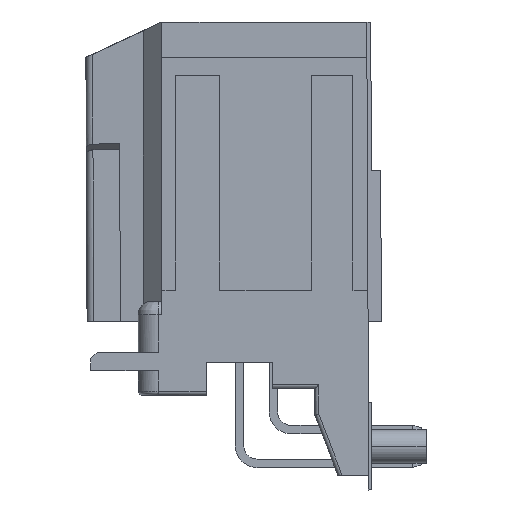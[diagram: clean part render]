
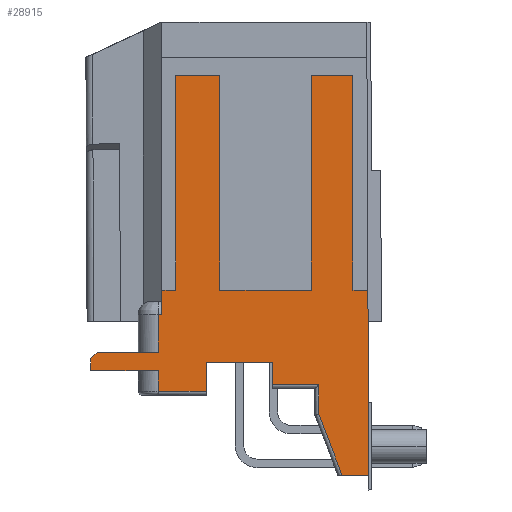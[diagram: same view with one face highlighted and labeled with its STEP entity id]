
A CAD part, left-side view. The second image highlights one B-rep face of the part: STEP entity #28915.
In plain terms, the highlighted planar face has unit normal (-1, 0, 0).
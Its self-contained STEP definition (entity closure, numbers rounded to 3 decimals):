
#2968=DIRECTION('',(0.,-1.,0.));
#2969=VECTOR('',#2968,0.276);
#2970=CARTESIAN_POINT('',(-90.055,48.736,
-20.1));
#2971=LINE('',#2970,#2969);
#2988=DIRECTION('',(0.,0.,1.));
#2989=VECTOR('',#2988,1.855);
#2990=CARTESIAN_POINT('',(-90.055,48.46,
-20.1));
#2991=LINE('',#2990,#2989);
#4014=DIRECTION('',(0.,1.,0.));
#4015=VECTOR('',#4014,1.958);
#4016=CARTESIAN_POINT('',(-90.055,32.954,-32.15));
#4017=LINE('',#4016,#4015);
#6183=DIRECTION('',(0.,1.,0.));
#6184=VECTOR('',#6183,5.099);
#6185=CARTESIAN_POINT('',(-90.055,48.717,-24.3));
#6186=LINE('',#6185,#6184);
#6279=DIRECTION('',(0.,1.,0.));
#6280=VECTOR('',#6279,3.591);
#6281=CARTESIAN_POINT('',(-90.055,45.121,
-25.85));
#6282=LINE('',#6281,#6280);
#6297=DIRECTION('',(0.,0.003,1.));
#6298=VECTOR('',#6297,1.55);
#6299=CARTESIAN_POINT('',(-90.055,48.712,
-25.85));
#6300=LINE('',#6299,#6298);
#6311=DIRECTION('',(0.,0.706,-0.709));
#6312=VECTOR('',#6311,0.705);
#6313=CARTESIAN_POINT('',(-90.055,53.321,-22.9));
#6314=LINE('',#6313,#6312);
#6315=DIRECTION('',(0.,1.,0.));
#6316=VECTOR('',#6315,4.597);
#6317=CARTESIAN_POINT('',(-90.055,48.724,-22.9));
#6318=LINE('',#6317,#6316);
#6319=DIRECTION('',(0.,-0.004,-1.));
#6320=VECTOR('',#6319,2.8);
#6321=CARTESIAN_POINT('',(-90.055,48.736,
-20.1));
#6322=LINE('',#6321,#6320);
#6323=DIRECTION('',(0.,1.,0.));
#6324=VECTOR('',#6323,1.03);
#6325=CARTESIAN_POINT('',(-90.055,47.43,
-18.245));
#6326=LINE('',#6325,#6324);
#6327=DIRECTION('',(0.,1.,0.));
#6328=VECTOR('',#6327,6.864);
#6329=CARTESIAN_POINT('',(-90.055,37.233,
-18.245));
#6330=LINE('',#6329,#6328);
#6331=DIRECTION('',(0.,1.,0.));
#6332=VECTOR('',#6331,1.121);
#6333=CARTESIAN_POINT('',(-90.055,32.975,
-18.245));
#6334=LINE('',#6333,#6332);
#6335=DIRECTION('',(0.,0.004,1.));
#6336=VECTOR('',#6335,8.468);
#6337=CARTESIAN_POINT('',(-90.055,32.938,
-26.713));
#6338=LINE('',#6337,#6336);
#6339=DIRECTION('',(0.,-1.,0.));
#6340=VECTOR('',#6339,0.016);
#6341=CARTESIAN_POINT('',(-90.055,32.954,
-26.713));
#6342=LINE('',#6341,#6340);
#6343=DIRECTION('',(0.,0.,1.));
#6344=VECTOR('',#6343,5.437);
#6345=CARTESIAN_POINT('',(-90.055,32.954,-32.15));
#6346=LINE('',#6345,#6344);
#6347=DIRECTION('',(0.,-0.357,-0.934));
#6348=VECTOR('',#6347,4.877);
#6349=CARTESIAN_POINT('',(-90.055,36.653,
-27.594));
#6350=LINE('',#6349,#6348);
#6351=DIRECTION('',(0.,-0.004,-1.));
#6352=VECTOR('',#6351,1.7);
#6353=CARTESIAN_POINT('',(-90.055,40.128,-23.65));
#6354=LINE('',#6353,#6352);
#6355=DIRECTION('',(0.,-0.004,1.));
#6356=VECTOR('',#6355,2.2);
#6357=CARTESIAN_POINT('',(-90.055,45.121,
-25.85));
#6358=LINE('',#6357,#6356);
#6363=DIRECTION('',(0.,0.003,1.));
#6364=VECTOR('',#6363,0.901);
#6365=CARTESIAN_POINT('',(-90.055,53.815,-24.3));
#6366=LINE('',#6365,#6364);
#6489=DIRECTION('',(0.,0.,-1.));
#6490=VECTOR('',#6489,16.15);
#6491=CARTESIAN_POINT('',(-90.055,44.097,
-2.096));
#6492=LINE('',#6491,#6490);
#6509=DIRECTION('',(0.,0.,1.));
#6510=VECTOR('',#6509,16.15);
#6511=CARTESIAN_POINT('',(-90.055,37.233,
-18.245));
#6512=LINE('',#6511,#6510);
#6513=DIRECTION('',(0.,-1.,0.));
#6514=VECTOR('',#6513,3.136);
#6515=CARTESIAN_POINT('',(-90.055,37.233,
-2.096));
#6516=LINE('',#6515,#6514);
#6521=DIRECTION('',(0.,0.,-1.));
#6522=VECTOR('',#6521,16.15);
#6523=CARTESIAN_POINT('',(-90.055,34.097,
-2.096));
#6524=LINE('',#6523,#6522);
#6537=DIRECTION('',(0.,-1.,0.));
#6538=VECTOR('',#6537,3.333);
#6539=CARTESIAN_POINT('',(-90.055,47.43,
-2.096));
#6540=LINE('',#6539,#6538);
#6545=DIRECTION('',(0.,0.,1.));
#6546=VECTOR('',#6545,16.15);
#6547=CARTESIAN_POINT('',(-90.055,47.43,
-18.245));
#6548=LINE('',#6547,#6546);
#6727=CARTESIAN_POINT('',(-90.055,34.912,-32.15));
#6751=DIRECTION('',(0.,0.004,1.));
#6752=VECTOR('',#6751,2.244);
#6753=CARTESIAN_POINT('',(-90.055,36.653,
-27.594));
#6754=LINE('',#6753,#6752);
#6768=DIRECTION('',(0.,1.,0.));
#6769=VECTOR('',#6768,3.458);
#6770=CARTESIAN_POINT('',(-90.055,36.663,-25.35));
#6771=LINE('',#6770,#6769);
#6817=DIRECTION('',(0.,1.,0.));
#6818=VECTOR('',#6817,4.983);
#6819=CARTESIAN_POINT('',(-90.055,40.128,-23.65));
#6820=LINE('',#6819,#6818);
#6831=CARTESIAN_POINT('',(-90.055,45.121,
-25.85));
#17572=VERTEX_POINT('',#6727);
#17573=CARTESIAN_POINT('',(-90.055,36.653,
-27.594));
#17574=VERTEX_POINT('',#17573);
#17617=CARTESIAN_POINT('',(-90.055,36.663,-25.35));
#17618=VERTEX_POINT('',#17617);
#18080=CARTESIAN_POINT('',(-90.055,32.975,
-18.245));
#18081=VERTEX_POINT('',#18080);
#18082=CARTESIAN_POINT('',(-90.055,32.938,
-26.713));
#18083=VERTEX_POINT('',#18082);
#19253=CARTESIAN_POINT('',(-90.055,48.736,
-20.1));
#19254=VERTEX_POINT('',#19253);
#19255=CARTESIAN_POINT('',(-90.055,48.46,
-20.1));
#19256=VERTEX_POINT('',#19255);
#19258=CARTESIAN_POINT('',(-90.055,48.711,
-25.85));
#19260=VERTEX_POINT('',#19258);
#19263=VERTEX_POINT('',#6831);
#19614=CARTESIAN_POINT('',(-90.055,48.46,
-18.245));
#19615=VERTEX_POINT('',#19614);
#19622=CARTESIAN_POINT('',(-90.055,48.717,-24.3));
#19623=CARTESIAN_POINT('',(-90.055,53.815,-24.3));
#19624=VERTEX_POINT('',#19622);
#19625=VERTEX_POINT('',#19623);
#19626=CARTESIAN_POINT('',(-90.055,45.111,-23.65));
#19627=VERTEX_POINT('',#19626);
#19628=CARTESIAN_POINT('',(-90.055,40.128,-23.65));
#19629=VERTEX_POINT('',#19628);
#19630=CARTESIAN_POINT('',(-90.055,40.121,-25.35));
#19631=VERTEX_POINT('',#19630);
#19632=CARTESIAN_POINT('',(-90.055,32.954,-32.15));
#19633=VERTEX_POINT('',#19632);
#19634=CARTESIAN_POINT('',(-90.055,32.954,
-26.713));
#19635=VERTEX_POINT('',#19634);
#19636=CARTESIAN_POINT('',(-90.055,34.097,
-18.245));
#19637=VERTEX_POINT('',#19636);
#19638=CARTESIAN_POINT('',(-90.055,34.097,
-2.096));
#19639=VERTEX_POINT('',#19638);
#19640=CARTESIAN_POINT('',(-90.055,37.233,
-2.096));
#19641=VERTEX_POINT('',#19640);
#19642=CARTESIAN_POINT('',(-90.055,37.233,
-18.245));
#19643=VERTEX_POINT('',#19642);
#19644=CARTESIAN_POINT('',(-90.055,44.097,
-18.245));
#19645=VERTEX_POINT('',#19644);
#19646=CARTESIAN_POINT('',(-90.055,44.097,
-2.096));
#19647=VERTEX_POINT('',#19646);
#19648=CARTESIAN_POINT('',(-90.055,47.43,
-2.096));
#19649=VERTEX_POINT('',#19648);
#19650=CARTESIAN_POINT('',(-90.055,47.43,
-18.245));
#19651=VERTEX_POINT('',#19650);
#19652=CARTESIAN_POINT('',(-90.055,48.724,-22.9));
#19653=VERTEX_POINT('',#19652);
#19654=CARTESIAN_POINT('',(-90.055,53.321,-22.9));
#19655=VERTEX_POINT('',#19654);
#19656=CARTESIAN_POINT('',(-90.055,53.818,
-23.399));
#19657=VERTEX_POINT('',#19656);
#28860=CARTESIAN_POINT('',(-90.055,54.341,
-1.344));
#28861=DIRECTION('',(-1.,0.,0.));
#28862=DIRECTION('',(0.,0.,-1.));
#28863=AXIS2_PLACEMENT_3D('',#28860,#28861,#28862);
#28864=PLANE('',#28863);
#28865=ORIENTED_EDGE('',*,*,#28691,.T.);
#28867=ORIENTED_EDGE('',*,*,#28866,.T.);
#28869=ORIENTED_EDGE('',*,*,#28868,.F.);
#28871=ORIENTED_EDGE('',*,*,#28870,.F.);
#28873=ORIENTED_EDGE('',*,*,#28872,.F.);
#28874=ORIENTED_EDGE('',*,*,#25879,.T.);
#28875=ORIENTED_EDGE('',*,*,#25902,.T.);
#28877=ORIENTED_EDGE('',*,*,#28876,.F.);
#28879=ORIENTED_EDGE('',*,*,#28878,.T.);
#28881=ORIENTED_EDGE('',*,*,#28880,.T.);
#28883=ORIENTED_EDGE('',*,*,#28882,.T.);
#28885=ORIENTED_EDGE('',*,*,#28884,.F.);
#28887=ORIENTED_EDGE('',*,*,#28886,.T.);
#28889=ORIENTED_EDGE('',*,*,#28888,.T.);
#28891=ORIENTED_EDGE('',*,*,#28890,.T.);
#28893=ORIENTED_EDGE('',*,*,#28892,.F.);
#28894=ORIENTED_EDGE('',*,*,#25937,.F.);
#28896=ORIENTED_EDGE('',*,*,#28895,.F.);
#28897=ORIENTED_EDGE('',*,*,#26704,.F.);
#28898=ORIENTED_EDGE('',*,*,#26950,.T.);
#28900=ORIENTED_EDGE('',*,*,#28899,.F.);
#28902=ORIENTED_EDGE('',*,*,#28901,.T.);
#28904=ORIENTED_EDGE('',*,*,#28903,.T.);
#28906=ORIENTED_EDGE('',*,*,#28905,.F.);
#28908=ORIENTED_EDGE('',*,*,#28907,.T.);
#28910=ORIENTED_EDGE('',*,*,#28909,.F.);
#28911=ORIENTED_EDGE('',*,*,#28805,.T.);
#28912=ORIENTED_EDGE('',*,*,#28852,.T.);
#28913=EDGE_LOOP('',(#28865,#28867,#28869,#28871,#28873,#28874,#28875,#28877,
#28879,#28881,#28883,#28885,#28887,#28889,#28891,#28893,#28894,#28896,#28897,
#28898,#28900,#28902,#28904,#28906,#28908,#28910,#28911,#28912));
#28914=FACE_OUTER_BOUND('',#28913,.F.);
#28915=ADVANCED_FACE('',(#28914),#28864,.T.);
#25879=EDGE_CURVE('',#19254,#19256,#2971,.T.);
#25902=EDGE_CURVE('',#19256,#19615,#2991,.T.);
#25937=EDGE_CURVE('',#18083,#18081,#6338,.T.);
#26704=EDGE_CURVE('',#19633,#19635,#6346,.T.);
#26950=EDGE_CURVE('',#19633,#17572,#4017,.T.);
#28691=EDGE_CURVE('',#19624,#19625,#6186,.T.);
#28805=EDGE_CURVE('',#19263,#19260,#6282,.T.);
#28852=EDGE_CURVE('',#19260,#19624,#6300,.T.);
#28866=EDGE_CURVE('',#19625,#19657,#6366,.T.);
#28868=EDGE_CURVE('',#19655,#19657,#6314,.T.);
#28870=EDGE_CURVE('',#19653,#19655,#6318,.T.);
#28872=EDGE_CURVE('',#19254,#19653,#6322,.T.);
#28876=EDGE_CURVE('',#19651,#19615,#6326,.T.);
#28878=EDGE_CURVE('',#19651,#19649,#6548,.T.);
#28880=EDGE_CURVE('',#19649,#19647,#6540,.T.);
#28882=EDGE_CURVE('',#19647,#19645,#6492,.T.);
#28884=EDGE_CURVE('',#19643,#19645,#6330,.T.);
#28886=EDGE_CURVE('',#19643,#19641,#6512,.T.);
#28888=EDGE_CURVE('',#19641,#19639,#6516,.T.);
#28890=EDGE_CURVE('',#19639,#19637,#6524,.T.);
#28892=EDGE_CURVE('',#18081,#19637,#6334,.T.);
#28895=EDGE_CURVE('',#19635,#18083,#6342,.T.);
#28899=EDGE_CURVE('',#17574,#17572,#6350,.T.);
#28901=EDGE_CURVE('',#17574,#17618,#6754,.T.);
#28903=EDGE_CURVE('',#17618,#19631,#6771,.T.);
#28905=EDGE_CURVE('',#19629,#19631,#6354,.T.);
#28907=EDGE_CURVE('',#19629,#19627,#6820,.T.);
#28909=EDGE_CURVE('',#19263,#19627,#6358,.T.);
